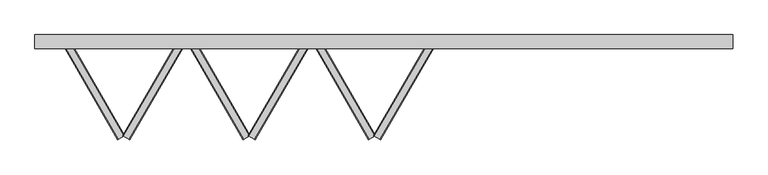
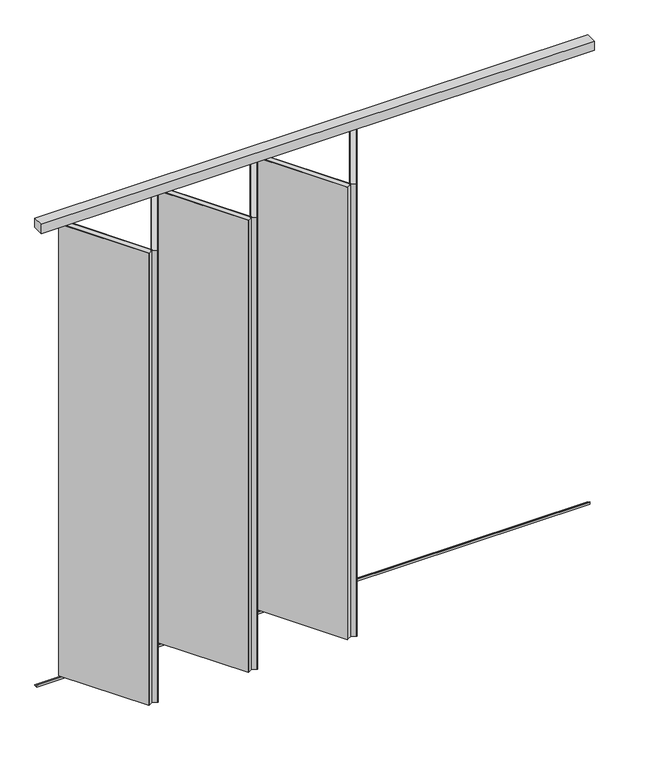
"""IFC4 building model written with IfcOpenShell, lengths in millimetres: proxy geometry, Renson_Amani_Loggia_Canvas_Folding : Renson_Amani_Loggia_Canvas_Folding."""

from ifc_helpers import new_model, si_unit, frame, origin, place, context, project, spatial, polyline, outline, extrude, source, transform, mapped, element, save


def generic_models_e845687a(model_context):
    return source(origin(), model_context, "Body", "SweptSolid", [
        extrude(outline(polyline([(3850.0, 602.9165125), (3850.0, 522.9165125), (-150.0, 522.9165125), (-150.0, 602.9165125), (3850.0, 602.9165125)])), frame((0.0, 0.0, 3500.0), z_axis=(0.0, 0.0, 1.0), x_axis=(1.0, 0.0, 0.0)), (0.0, 0.0, 1.0), 70.0),
        extrude(outline(polyline([(1795.0429399, 21.5), (1792.4448637, 23.0), (2117.4448637, 585.9165125), (2120.0429399, 584.4165125), (1795.0429399, 21.5)])), frame((0.0, 0.0, 45.0), z_axis=(0.0, 0.0, 1.0), x_axis=(1.0, 0.0, 0.0)), (0.0, 0.0, 1.0), 3455.0),
        extrude(outline(polyline([(1832.2820323, 0.0), (1829.6839561, 1.5), (2154.6839561, 564.4165125), (2157.2820323, 562.9165125), (1832.2820323, 0.0)])), frame((0.0, 0.0, 45.0), z_axis=(0.0, 0.0, 1.0), x_axis=(1.0, 0.0, 0.0)), (0.0, 0.0, 1.0), 3455.0),
        extrude(outline(polyline([(3415.0, 40.0), (3415.0, -610.0), (-40.0, -610.0), (-40.0, 40.0), (3415.0, 40.0)]), holes=[polyline([(3375.0, -570.0), (3375.0, 0.0), (0.0, 0.0), (0.0, -570.0), (3375.0, -570.0)])]), frame((2134.6839561, 529.7754963, 85.0), z_axis=(-0.8660254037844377, 0.5000000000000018, 0.0), x_axis=(0.0, 0.0, 1.0)), (0.0, 0.0, 1.0), 40.0),
        extrude(outline(polyline([(1800.5211247, 21.5), (1475.5211247, 584.4165125), (1478.1192009, 585.9165125), (1803.1192009, 23.0), (1800.5211247, 21.5)])), frame((0.0, 0.0, 45.0), z_axis=(0.0, 0.0, 1.0), x_axis=(1.0, 0.0, 0.0)), (0.0, 0.0, 1.0), 3455.0),
        extrude(outline(polyline([(1763.2820323, 0.0), (1438.2820323, 562.9165125), (1440.8801085, 564.4165125), (1765.8801085, 1.5), (1763.2820323, 0.0)])), frame((0.0, 0.0, 45.0), z_axis=(0.0, 0.0, 1.0), x_axis=(1.0, 0.0, 0.0)), (0.0, 0.0, 1.0), 3455.0),
        extrude(outline(polyline([(3415.0, -40.0), (-40.0, -40.0), (-40.0, 610.0), (3415.0, 610.0), (3415.0, -40.0)]), holes=[polyline([(3375.0, 570.0), (0.0, 570.0), (0.0, 0.0), (3375.0, 0.0), (3375.0, 570.0)])]), frame((1460.8801085, 529.7754963, 85.0), z_axis=(0.8660254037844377, 0.5000000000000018, 0.0), x_axis=(0.0, 0.0, 1.0)), (0.0, 0.0, 1.0), 40.0),
        extrude(outline(polyline([(1076.0429399, 21.5), (1073.4448637, 23.0), (1398.4448637, 585.9165125), (1401.0429399, 584.4165125), (1076.0429399, 21.5)])), frame((0.0, 0.0, 45.0), z_axis=(0.0, 0.0, 1.0), x_axis=(1.0, 0.0, 0.0)), (0.0, 0.0, 1.0), 3455.0),
        extrude(outline(polyline([(1113.2820323, 0.0), (1110.6839561, 1.5), (1435.6839561, 564.4165125), (1438.2820323, 562.9165125), (1113.2820323, 0.0)])), frame((0.0, 0.0, 45.0), z_axis=(0.0, 0.0, 1.0), x_axis=(1.0, 0.0, 0.0)), (0.0, 0.0, 1.0), 3455.0),
        extrude(outline(polyline([(3415.0, 40.0), (3415.0, -610.0), (-40.0, -610.0), (-40.0, 40.0), (3415.0, 40.0)]), holes=[polyline([(3375.0, -570.0), (3375.0, 0.0), (0.0, 0.0), (0.0, -570.0), (3375.0, -570.0)])]), frame((1415.6839561, 529.7754963, 85.0), z_axis=(-0.8660254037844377, 0.5000000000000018, 0.0), x_axis=(0.0, 0.0, 1.0)), (0.0, 0.0, 1.0), 40.0),
        extrude(outline(polyline([(1081.5211247, 21.5), (756.5211247, 584.4165125), (759.1192009, 585.9165125), (1084.1192009, 23.0), (1081.5211247, 21.5)])), frame((0.0, 0.0, 45.0), z_axis=(0.0, 0.0, 1.0), x_axis=(1.0, 0.0, 0.0)), (0.0, 0.0, 1.0), 3455.0),
        extrude(outline(polyline([(1044.2820323, 0.0), (719.2820323, 562.9165125), (721.8801085, 564.4165125), (1046.8801085, 1.5), (1044.2820323, 0.0)])), frame((0.0, 0.0, 45.0), z_axis=(0.0, 0.0, 1.0), x_axis=(1.0, 0.0, 0.0)), (0.0, 0.0, 1.0), 3455.0),
        extrude(outline(polyline([(3415.0, -40.0), (-40.0, -40.0), (-40.0, 610.0), (3415.0, 610.0), (3415.0, -40.0)]), holes=[polyline([(3375.0, 570.0), (0.0, 570.0), (0.0, 0.0), (3375.0, 0.0), (3375.0, 570.0)])]), frame((741.8801085, 529.7754963, 85.0), z_axis=(0.8660254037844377, 0.5000000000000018, 0.0), x_axis=(0.0, 0.0, 1.0)), (0.0, 0.0, 1.0), 40.0),
        extrude(outline(polyline([(357.0429399, 21.5), (354.4448637, 23.0), (679.4448637, 585.9165125), (682.0429399, 584.4165125), (357.0429399, 21.5)])), frame((0.0, 0.0, 45.0), z_axis=(0.0, 0.0, 1.0), x_axis=(1.0, 0.0, 0.0)), (0.0, 0.0, 1.0), 3455.0),
        extrude(outline(polyline([(394.2820323, 0.0), (391.6839561, 1.5), (716.6839561, 564.4165125), (719.2820323, 562.9165125), (394.2820323, 0.0)])), frame((0.0, 0.0, 45.0), z_axis=(0.0, 0.0, 1.0), x_axis=(1.0, 0.0, 0.0)), (0.0, 0.0, 1.0), 3455.0),
        extrude(outline(polyline([(3415.0, 40.0), (3415.0, -610.0), (-40.0, -610.0), (-40.0, 40.0), (3415.0, 40.0)]), holes=[polyline([(3375.0, -570.0), (3375.0, 0.0), (0.0, 0.0), (0.0, -570.0), (3375.0, -570.0)])]), frame((696.6839561, 529.7754963, 85.0), z_axis=(-0.8660254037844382, 0.5000000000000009, 0.0), x_axis=(0.0, 0.0, 1.0)), (0.0, 0.0, 1.0), 40.0),
        extrude(outline(polyline([(362.2390924, 21.5), (37.2390924, 584.4165125), (39.8371686, 585.9165125), (364.8371686, 23.0), (362.2390924, 21.5)])), frame((0.0, 0.0, 45.0), z_axis=(0.0, 0.0, 1.0), x_axis=(1.0, 0.0, 0.0)), (0.0, 0.0, 1.0), 3455.0),
        extrude(outline(polyline([(325.0, 0.0), (0.0, 562.9165125), (2.5980762, 564.4165125), (327.5980762, 1.5), (325.0, 0.0)])), frame((0.0, 0.0, 45.0), z_axis=(0.0, 0.0, 1.0), x_axis=(1.0, 0.0, 0.0)), (0.0, 0.0, 1.0), 3455.0),
        extrude(outline(polyline([(3415.0, -40.0), (-40.0, -40.0), (-40.0, 610.0), (3415.0, 610.0), (3415.0, -40.0)]), holes=[polyline([(3375.0, 570.0), (0.0, 570.0), (0.0, 0.0), (3375.0, 0.0), (3375.0, 570.0)])]), frame((22.5980762, 529.7754963, 85.0), z_axis=(0.8660254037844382, 0.5000000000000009, 0.0), x_axis=(0.0, 0.0, 1.0)), (0.0, 0.0, 1.0), 40.0),
        extrude(outline(polyline([(576.9165125, 15.0), (579.9165125, 15.0), (579.9165125, 3.0), (602.9165125, 3.0), (602.9165125, 0.0), (576.9165125, 0.0), (576.9165125, 15.0)])), frame((-150.0, 0.0, 0.0), z_axis=(1.0, 0.0, 0.0), x_axis=(0.0, 1.0, 0.0)), (0.0, 0.0, 1.0), 4000.0),
    ])


if __name__ == "__main__":
    model = new_model("IFC4")
    model_context = context("Model", 3, world=origin())
    ifc_project = project(units=[si_unit("LENGTHUNIT", "METRE", prefix="MILLI")], contexts=[model_context])
    site = spatial("IfcSite", under=ifc_project)
    building = spatial("IfcBuilding", under=site)
    placement = place(None, origin())
    generic_models_shape = generic_models_e845687a(model_context)
    element("IfcBuildingElementProxy", 1, Name="Renson_Amani_Loggia_Canvas_Folding : Renson_Amani_Loggia_Canvas_Folding", ObjectType="Renson_Amani_Loggia_Canvas_Folding : Renson_Amani_Loggia_Canvas_Folding", at=placement, inside=building, context=model_context, shape_type="MappedRepresentation", body=[
        mapped(generic_models_shape, transform((0.0, 0.0, 0.0), x_axis=(1.0, 0.0, 0.0), y_axis=(0.0, 1.0, 0.0), z_axis=(0.0, 0.0, 1.0))),
    ])
    save(model, "model.ifc")
